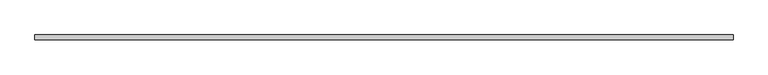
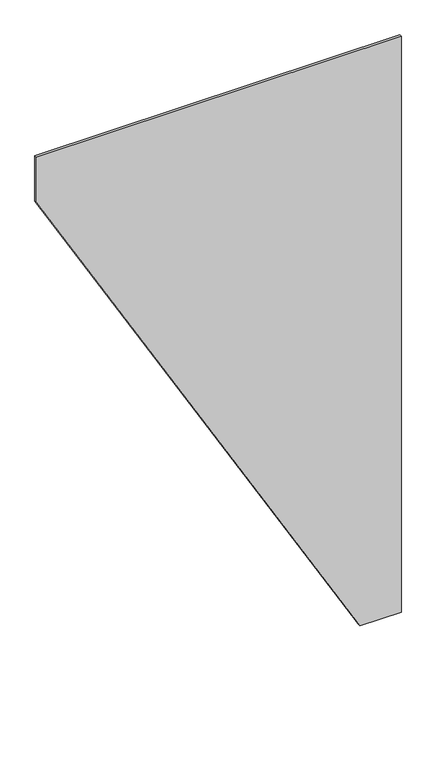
"""IFC4 building model written with IfcOpenShell, lengths in millimetres: plate geometry, 系統嵌板 : 玻璃 1.0cm."""

from ifc_helpers import new_model, si_unit, frame, origin, place, context, project, spatial, polyline, outline, extrude, source, transform, mapped, element, save


def plate_f1760178(model_context):
    return source(origin(), model_context, "Body", "SweptSolid", [
        extrude(outline(polyline([(0.0, 580.1270189), (0.0, 750.0), (2500.0, 750.0), (2500.0, -750.0), (2303.8475773, -750.0), (0.0, 580.1270189)])), frame((0.0, -5.0, 0.0), z_axis=(0.0, 1.0, 0.0), x_axis=(0.0, 0.0, 1.0)), (0.0, 0.0, 1.0), 10.0),
    ])


if __name__ == "__main__":
    model = new_model("IFC4")
    model_context = context("Model", 3, world=origin())
    ifc_project = project(units=[si_unit("LENGTHUNIT", "METRE", prefix="MILLI")], contexts=[model_context])
    site = spatial("IfcSite", under=ifc_project)
    building = spatial("IfcBuilding", under=site)
    placement = place(None, origin())
    plate_shape = plate_f1760178(model_context)
    element("IfcPlate", 1, ObjectType="系統嵌板 : 玻璃 1.0cm", at=placement, inside=building, context=model_context, shape_type="MappedRepresentation", body=[
        mapped(plate_shape, transform((0.0, 0.0, 0.0), x_axis=(1.0, 0.0, 0.0), y_axis=(0.0, 1.0, 0.0), z_axis=(0.0, 0.0, 1.0))),
    ])
    save(model, "model.ifc")
